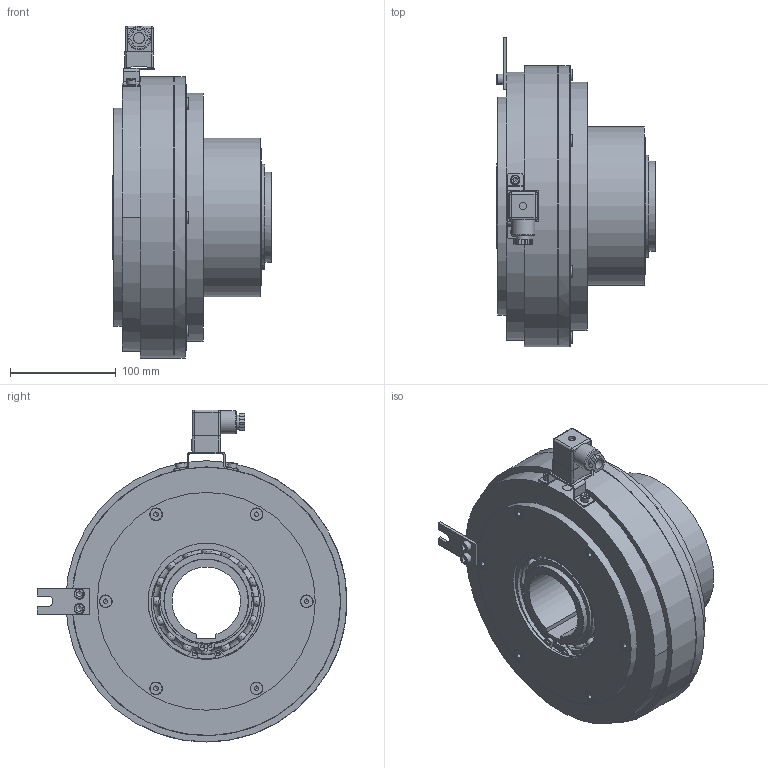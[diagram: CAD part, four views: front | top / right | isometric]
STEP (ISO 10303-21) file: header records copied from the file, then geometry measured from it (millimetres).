
FILE_DESCRIPTION(/* description */ (''),/* implementation_level */ '2;1');
FILE_NAME(/* name */ 'X:\INVENTOR\DISEGNI\08_Freni_Friz_Elettmag_Monodisco\08_26 EMSL_DF\EMSL_DF STEP\08_26_260_41 EMSL260_DF-R_S@STEP.stp',/* time_stamp */ '2018-04-24T09:52:58+02:00',/* author */ ('stefano'),/* organization */ (''),/* preprocessor_version */ 'ST-DEVELOPER v17',/* originating_system */ 'Autodesk Inventor 2018',/* authorisation */ '');
FILE_SCHEMA (('AUTOMOTIVE_DESIGN { 1 0 10303 214 3 1 1 }'));
Products named in the file (1): 08_26_260_41 EMSL260_DF-R - Spina_Substitute_1
Bounding box: 150 x 293 x 313.9 mm (x, y, z)
Volume: 3875395.4 mm3; surface area: 705185.8 mm2
Topology: 2 solids, 2 shells, 1094 faces, 3517 edges, 2375 vertices
Faces by surface type: plane 404, cylinder 387, torus 149, cone 94, sphere 60
Full cylindrical faces by diameter (mm): 2 x7, 3 x2, 3.5 x4, 4.917 x10, 5 x2, 5.25 x2, 6.647 x12, 7 x7, 7.1 x24, 8.5 x2, 9 x1, 10 x12, 10.5 x1, 11 x24, 11.34 x6, 12 x6, 13 x7, 13.5 x6, 22 x1, 76.5 x1, 80 x2, 81.5 x1, 85 x4, 89.6 x4, 90 x1, 99 x1, 99.4 x4, 100.4 x4, 105 x2, 110 x4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
Entity records: 47197 total; most frequent: CARTESIAN_POINT 15305, ORIENTED_EDGE 6734, DIRECTION 6517, EDGE_CURVE 3367, AXIS2_PLACEMENT_3D 2720, VERTEX_POINT 2379, CIRCLE 1625, EDGE_LOOP 1416
